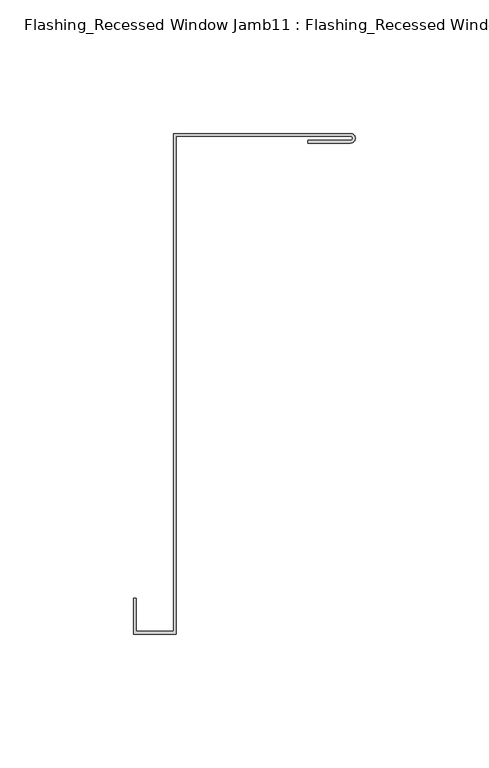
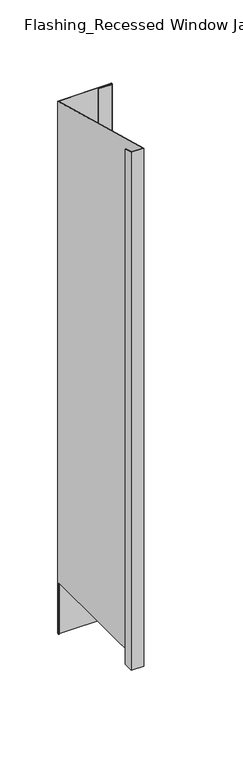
"""IFC4 building model written with IfcOpenShell, lengths in millimetres: proxy geometry, Flashing_Recessed Window Jamb11 : Flashing_Recessed Window Jamb."""

from ifc_helpers import new_model, si_unit, frame, origin, place, context, project, spatial, polyline, circle_curve, ellipse_curve, source, transform, mapped, element, save
from ifc_brep_helpers import plane_surface, cylinder_surface, revolved_surface, advanced_brep


def flashing_recessed_window_jamb11_flashing_recessed_window_a8076ed2(model_context):
    return source(origin(), model_context, "Body", "AdvancedBrep", [
        advanced_brep(
        [(12382.5936679, -23646.8591805, -705.1751138), (12317.2186679, -23646.8591805, -705.1751138), (12317.2186679, -23647.7910321, -705.1751138), (12316.2186679, -23647.7910321, -705.1751138), (12316.2186679, -23645.8591805, -705.1751138), (12382.5936679, -23645.8591805, -705.1751138), (12382.5936679, -23649.4040374, -705.1751138), (12382.3502717, -23649.4040374, -705.1751138), (12382.3502717, -23648.4040374, -705.1751138), (12382.5936679, -23648.4040374, -705.1751138), (12316.2186679, -23645.8591805, 6.7848827), (12382.5936679, -23645.8591805, 6.7848827), (12316.2186679, -23647.7910321, -635.662203), (12316.2186679, -23832.2321624, -635.662203), (12316.2186679, -23832.2321624, 56.7233727), (12302.2186679, -23832.2321624, 56.7233727), (12302.2186679, -23832.2321624, -635.662203), (12302.2186679, -23819.906434, 53.4207037), (12302.2186679, -23819.906434, -635.662203), (12301.2186679, -23819.906434, 53.4207037), (12301.2186679, -23819.906434, -635.662203), (12301.2186679, -23833.2321624, 56.9913219), (12301.2186679, -23833.2321624, -635.662203), (12317.2186679, -23833.2321624, 56.9913219), (12317.2186679, -23833.2321624, -635.662203), (12317.2186679, -23646.8591805, 7.0528319), (12317.2186679, -23647.7910321, -635.662203), (12382.5936679, -23646.8591805, 7.0528319), (12382.5936679, -23649.4040374, 7.7347242), (12366.5330375, -23649.4040374, 7.7347242), (12366.5330375, -23649.4040374, -635.662203), (12382.3502717, -23649.4040374, -635.662203), (12366.5330375, -23648.4040374, 7.4667751), (12366.5330375, -23648.4040374, -635.662203), (12382.5936679, -23648.4040374, 7.4667751), (12382.3502717, -23648.4040374, -635.662203)],
        [
            (0, 1),
            (1, 2),
            (2, 3),
            (3, 4),
            (4, 5),
            (5, 6, circle_curve(frame((12382.5936679, -23647.631609, -705.1751138), z_axis=(0.0, 0.0, -1.0), x_axis=(1.0, 0.0, 0.0)), 1.7724285)),
            (6, 7),
            (7, 8),
            (8, 9),
            (9, 0, circle_curve(frame((12382.5936679, -23647.631609, -705.1751138), z_axis=(0.0, 0.0, 1.0), x_axis=(1.0, 0.0, 0.0)), 0.7724285)),
            (4, 10),
            (10, 11),
            (11, 5),
            (3, 12),
            (12, 13),
            (13, 14),
            (14, 10),
            (15, 14),
            (13, 16),
            (16, 15),
            (17, 15),
            (16, 18),
            (18, 17),
            (19, 17),
            (18, 20),
            (20, 19),
            (21, 19),
            (20, 22),
            (22, 21),
            (23, 21),
            (22, 24),
            (24, 23),
            (1, 25),
            (25, 23),
            (24, 26),
            (26, 2),
            (0, 27),
            (27, 25),
            (6, 28),
            (28, 29),
            (29, 30),
            (30, 31),
            (31, 7),
            (29, 32),
            (32, 33),
            (33, 30),
            (34, 9),
            (8, 35),
            (35, 33),
            (32, 34),
            (34, 27, ellipse_curve(frame((12382.5936679, -23647.631609, 7.2598035), z_axis=(0.0, 0.2588190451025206, 0.9659258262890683), x_axis=(0.0, 0.9659258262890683, -0.25881904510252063)), 0.7996768, 0.7724285)),
            (11, 28, ellipse_curve(frame((12382.5936679, -23647.631609, 7.2598035), z_axis=(0.0, -0.2588190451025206, -0.9659258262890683), x_axis=(0.0, -0.9659258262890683, 0.25881904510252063)), 1.834953, 1.7724285)),
            (12, 26),
            (35, 31),
        ],
        [
            plane_surface(frame((12301.2186679, -23832.2321624, -705.1751138), z_axis=(0.0, 0.0, -1.0), x_axis=(1.0, 0.0, 0.0))),
            plane_surface(frame((12382.5936679, -23645.8591805, 72.3278596), z_axis=(0.0, 1.0, 0.0), x_axis=(0.0, 0.0, -1.0))),
            plane_surface(frame((12316.2186679, -23645.8591805, 72.3278596), z_axis=(-1.0, 0.0, 0.0), x_axis=(0.0, 0.0, -1.0))),
            plane_surface(frame((12316.2186679, -23832.2321624, 72.3278596), z_axis=(0.0, 1.0, 0.0), x_axis=(0.0, 0.0, -1.0))),
            plane_surface(frame((12302.2186679, -23832.2321624, 72.3278596), z_axis=(1.0, 0.0, 0.0), x_axis=(0.0, 0.0, -1.0))),
            plane_surface(frame((12302.2186679, -23819.906434, 72.3278596), z_axis=(0.0, 1.0, 0.0), x_axis=(0.0, 0.0, -1.0))),
            plane_surface(frame((12301.2186679, -23819.906434, 72.3278596), z_axis=(-1.0, 0.0, 0.0), x_axis=(0.0, 0.0, -1.0))),
            plane_surface(frame((12301.2186679, -23833.2321624, 72.3278596), z_axis=(0.0, -1.0, 0.0), x_axis=(0.0, 0.0, -1.0))),
            plane_surface(frame((12317.2186679, -23833.2321624, 72.3278596), z_axis=(1.0, 0.0, 0.0), x_axis=(0.0, 0.0, -1.0))),
            plane_surface(frame((12317.2186679, -23646.8591805, 72.3278596), z_axis=(0.0, -1.0, 0.0), x_axis=(0.0, 0.0, -1.0))),
            plane_surface(frame((12366.5330375, -23649.4040374, 72.3278596), z_axis=(0.0, -1.0, 0.0), x_axis=(0.0, 0.0, -1.0))),
            plane_surface(frame((12366.5330375, -23648.4040374, 72.3278596), z_axis=(-1.0, 0.0, 0.0), x_axis=(0.0, 0.0, -1.0))),
            plane_surface(frame((12382.5936679, -23648.4040374, 72.3278596), z_axis=(0.0, 1.0, 0.0), x_axis=(0.0, 0.0, -1.0))),
            revolved_surface(polyline([(12383.366096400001, -23647.631609, -705.1751138), (12383.366096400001, -23647.631609, 7.46677509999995)]), (12382.5936679, -23647.631609, -705.1751138), (0.0, 0.0, -1.0)),
            cylinder_surface(frame((12382.5936679, -23647.631609, -705.1751138), z_axis=(0.0, 0.0, 1.0), x_axis=(1.0, 0.0, 0.0)), 1.7724285),
            plane_surface(frame((12206.2186679, -23622.3277831, 0.4796638), z_axis=(0.0, 0.2588190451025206, 0.9659258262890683), x_axis=(1.0, 0.0, 0.0))),
            plane_surface(frame((12382.3502717, -23847.7910321, -635.662203), z_axis=(0.0, 0.0, -1.0), x_axis=(0.0, 1.0, 0.0))),
            plane_surface(frame((12382.3502717, -23847.7910321, -635.662203), z_axis=(-1.0, 0.0, 0.0), x_axis=(0.0, 0.0, -1.0))),
            plane_surface(frame((12382.3502717, -23647.7910321, -635.662203), z_axis=(0.0, -1.0, 0.0), x_axis=(0.0, 0.0, -1.0))),
        ],
        [
            (0, [[1, 2, 3, 4, 5, 6, 7, 8, 9, 10]]),
            (1, [[-5, 11, 12, 13]]),
            (2, [[-11, -4, 14, 15, 16, 17]]),
            (3, [[18, -16, 19, 20]]),
            (4, [[21, -20, 22, 23]]),
            (5, [[24, -23, 25, 26]]),
            (6, [[27, -26, 28, 29]]),
            (7, [[30, -29, 31, 32]]),
            (8, [[33, 34, -32, 35, 36, -2]]),
            (9, [[-1, 37, 38, -33]]),
            (10, [[39, 40, 41, 42, 43, -7]]),
            (11, [[44, 45, 46, -41]]),
            (12, [[47, -9, 48, 49, -45, 50]]),
            (13, [[-10, -47, 51, -37]]),
            (14, [[-6, -13, 52, -39]]),
            (15, [[-12, -17, -18, -21, -24, -27, -30, -34, -38, -51, -50, -44, -40, -52]]),
            (16, [[53, -35, -31, -28, -25, -22, -19, -15]]),
            (16, [[54, -42, -46, -49]]),
            (17, [[-54, -48, -8, -43]]),
            (18, [[-53, -14, -3, -36]]),
        ],
    ),
    ])


if __name__ == "__main__":
    model = new_model("IFC4")
    model_context = context("Model", 3, world=origin())
    ifc_project = project(units=[si_unit("LENGTHUNIT", "METRE", prefix="MILLI")], contexts=[model_context])
    site = spatial("IfcSite", under=ifc_project)
    building = spatial("IfcBuilding", under=site)
    placement = place(None, origin())
    flashing_recessed_window_jamb11_flashing_recessed_window_shape = flashing_recessed_window_jamb11_flashing_recessed_window_a8076ed2(model_context)
    element("IfcBuildingElementProxy", 1, Name="Flashing_Recessed Window Jamb11 : Flashing_Recessed Window Jamb", ObjectType="Flashing_Recessed Window Jamb11 : Flashing_Recessed Window Jamb", at=placement, inside=building, context=model_context, shape_type="MappedRepresentation", body=[
        mapped(flashing_recessed_window_jamb11_flashing_recessed_window_shape, transform((0.0, 0.0, 0.0), x_axis=(1.0, 0.0, 0.0), y_axis=(0.0, 1.0, 0.0), z_axis=(0.0, 0.0, 1.0))),
    ])
    save(model, "model.ifc")
